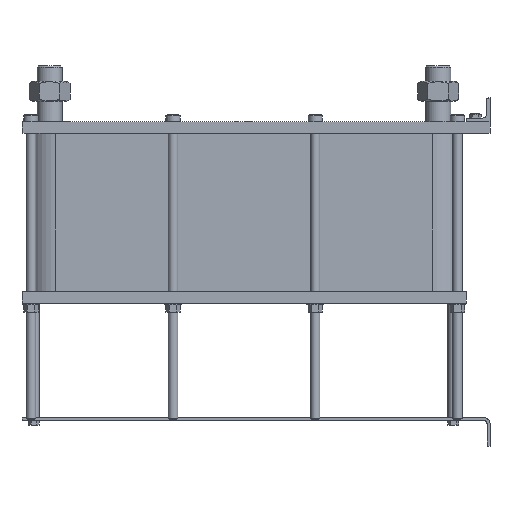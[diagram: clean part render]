
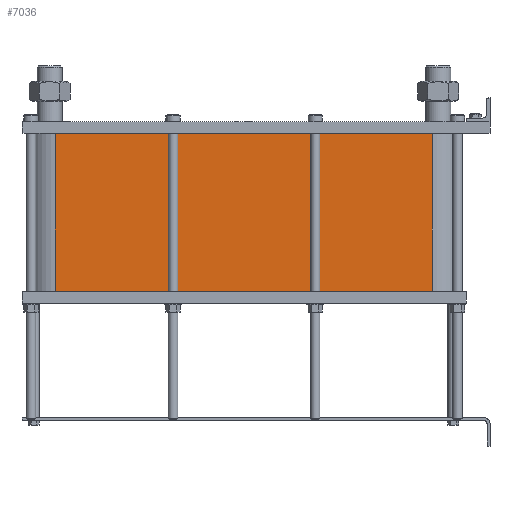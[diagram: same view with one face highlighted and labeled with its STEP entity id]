
A CAD part, left-side view. The second image highlights one B-rep face of the part: STEP entity #7036.
In plain terms, the highlighted planar face has unit normal (-1, 0, 0).
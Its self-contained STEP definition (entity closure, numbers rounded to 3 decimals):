
#999=LINE('',#15640,#1553);
#1031=LINE('',#15723,#1585);
#1032=LINE('',#15726,#1586);
#1033=LINE('',#15727,#1587);
#1553=VECTOR('',#9658,10.);
#1585=VECTOR('',#9736,10.);
#1586=VECTOR('',#9741,10.);
#1587=VECTOR('',#9742,10.);
#2117=FACE_OUTER_BOUND('',#2671,.T.);
#2671=EDGE_LOOP('',(#6246,#6247,#6248,#6249));
#3527=VERTEX_POINT('',#15634);
#3529=VERTEX_POINT('',#15638);
#3556=VERTEX_POINT('',#15720);
#3557=VERTEX_POINT('',#15722);
#4425=EDGE_CURVE('',#3529,#3527,#999,.T.);
#4466=EDGE_CURVE('',#3557,#3556,#1031,.T.);
#4468=EDGE_CURVE('',#3527,#3556,#1032,.T.);
#4469=EDGE_CURVE('',#3557,#3529,#1033,.T.);
#6246=ORIENTED_EDGE('',*,*,#4468,.F.);
#6247=ORIENTED_EDGE('',*,*,#4425,.F.);
#6248=ORIENTED_EDGE('',*,*,#4469,.F.);
#6249=ORIENTED_EDGE('',*,*,#4466,.T.);
#6608=PLANE('',#7812);
#7036=ADVANCED_FACE('',(#2117),#6608,.T.);
#7812=AXIS2_PLACEMENT_3D('',#15725,#9739,#9740);
#9658=DIRECTION('',(0.,0.,-1.));
#9736=DIRECTION('',(0.,0.,-1.));
#9739=DIRECTION('center_axis',(-1.,0.,0.));
#9740=DIRECTION('ref_axis',(0.,1.,0.));
#9741=DIRECTION('',(0.,1.,0.));
#9742=DIRECTION('',(0.,-1.,0.));
#15634=CARTESIAN_POINT('',(-72.,97.5,-266.6));
#15638=CARTESIAN_POINT('',(-72.,97.5,0.));
#15640=CARTESIAN_POINT('',(-72.,97.5,0.));
#15720=CARTESIAN_POINT('',(-72.,733.5,-266.6));
#15722=CARTESIAN_POINT('',(-72.,733.5,0.));
#15723=CARTESIAN_POINT('',(-72.,733.5,0.));
#15725=CARTESIAN_POINT('Origin',(-72.,97.5,0.));
#15726=CARTESIAN_POINT('',(-72.,256.5,-266.6));
#15727=CARTESIAN_POINT('',(-72.,733.5,0.));
